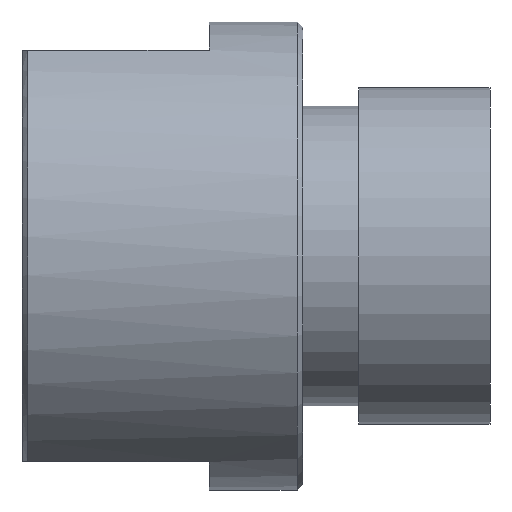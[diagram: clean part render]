
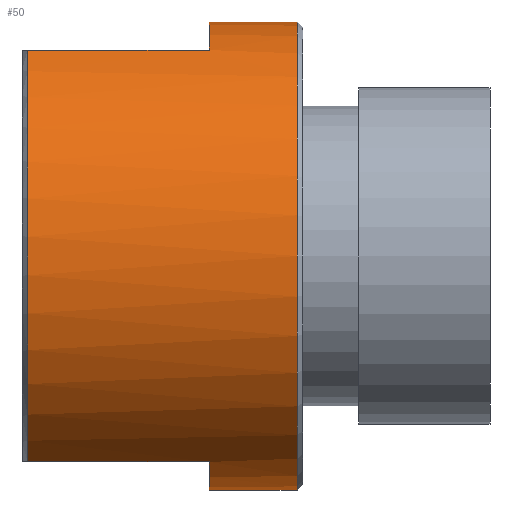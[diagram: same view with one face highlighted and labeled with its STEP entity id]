
A CAD part, left-side view. The second image highlights one B-rep face of the part: STEP entity #50.
In plain terms, the highlighted cylindrical face has radius 12.5 mm (diameter 25 mm), a partial arc.
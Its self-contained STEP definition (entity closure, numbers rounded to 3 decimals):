
#26 = VERTEX_POINT ( 'NONE', #477 ) ;
#30 = CARTESIAN_POINT ( 'NONE',  ( 0., 0.3, -12.5 ) ) ;
#36 = DIRECTION ( 'NONE',  ( 0., -1., 0. ) ) ;
#50 = ADVANCED_FACE ( 'NONE', ( #866 ), #141, .T. ) ;
#51 = VERTEX_POINT ( 'NONE', #287 ) ;
#60 = DIRECTION ( 'NONE',  ( 0., -1., 0. ) ) ;
#64 = ORIENTED_EDGE ( 'NONE', *, *, #449, .F. ) ;
#131 = VERTEX_POINT ( 'NONE', #168 ) ;
#141 = CYLINDRICAL_SURFACE ( 'NONE', #595, 12.5 ) ;
#157 = CARTESIAN_POINT ( 'NONE',  ( 0., 15., 0. ) ) ;
#159 = VERTEX_POINT ( 'NONE', #30 ) ;
#168 = CARTESIAN_POINT ( 'NONE',  ( -5.937, 5., 11. ) ) ;
#178 = DIRECTION ( 'NONE',  ( 0., -1., 0. ) ) ;
#190 = DIRECTION ( 'NONE',  ( 0., -1., 0. ) ) ;
#217 = DIRECTION ( 'NONE',  ( 0., -1., 0. ) ) ;
#245 = AXIS2_PLACEMENT_3D ( 'NONE', #721, #36, #801 ) ;
#250 = CARTESIAN_POINT ( 'NONE',  ( -5.937, 5., -11. ) ) ;
#271 = EDGE_CURVE ( 'NONE', #789, #496, #743, .T. ) ;
#287 = CARTESIAN_POINT ( 'NONE',  ( 0., 5., 12.5 ) ) ;
#288 = AXIS2_PLACEMENT_3D ( 'NONE', #514, #851, #318 ) ;
#292 = CIRCLE ( 'NONE', #245, 12.5 ) ;
#308 = VECTOR ( 'NONE', #190, 1000. ) ;
#318 = DIRECTION ( 'NONE',  ( 0., 0., 1. ) ) ;
#323 = CARTESIAN_POINT ( 'NONE',  ( 0., 15., 12.5 ) ) ;
#350 = LINE ( 'NONE', #364, #875 ) ;
#364 = CARTESIAN_POINT ( 'NONE',  ( 0., 15., -12.5 ) ) ;
#367 = EDGE_CURVE ( 'NONE', #159, #26, #392, .T. ) ;
#382 = EDGE_CURVE ( 'NONE', #51, #131, #650, .T. ) ;
#391 = DIRECTION ( 'NONE',  ( 0., 1., 0. ) ) ;
#392 = CIRCLE ( 'NONE', #288, 12.5 ) ;
#398 = ORIENTED_EDGE ( 'NONE', *, *, #367, .T. ) ;
#402 = AXIS2_PLACEMENT_3D ( 'NONE', #790, #391, #724 ) ;
#407 = CARTESIAN_POINT ( 'NONE',  ( -5.937, 15., 11. ) ) ;
#429 = CARTESIAN_POINT ( 'NONE',  ( 0., 5., -12.5 ) ) ;
#437 = DIRECTION ( 'NONE',  ( 0., -1., 0. ) ) ;
#449 = EDGE_CURVE ( 'NONE', #663, #131, #765, .T. ) ;
#466 = ORIENTED_EDGE ( 'NONE', *, *, #382, .T. ) ;
#471 = EDGE_LOOP ( 'NONE', ( #593, #466, #64, #684, #532, #490, #517, #398 ) ) ;
#477 = CARTESIAN_POINT ( 'NONE',  ( 0., 0.3, 12.5 ) ) ;
#489 = CIRCLE ( 'NONE', #402, 12.5 ) ;
#490 = ORIENTED_EDGE ( 'NONE', *, *, #853, .F. ) ;
#496 = VERTEX_POINT ( 'NONE', #803 ) ;
#501 = CARTESIAN_POINT ( 'NONE',  ( -5.937, 15., -11. ) ) ;
#514 = CARTESIAN_POINT ( 'NONE',  ( 0., 0.3, 0. ) ) ;
#517 = ORIENTED_EDGE ( 'NONE', *, *, #605, .T. ) ;
#532 = ORIENTED_EDGE ( 'NONE', *, *, #271, .F. ) ;
#549 = VECTOR ( 'NONE', #558, 1000. ) ;
#558 = DIRECTION ( 'NONE',  ( 0., 1., 0. ) ) ;
#566 = CARTESIAN_POINT ( 'NONE',  ( 0., 5., 0. ) ) ;
#575 = AXIS2_PLACEMENT_3D ( 'NONE', #566, #178, #637 ) ;
#581 = LINE ( 'NONE', #323, #308 ) ;
#593 = ORIENTED_EDGE ( 'NONE', *, *, #795, .F. ) ;
#595 = AXIS2_PLACEMENT_3D ( 'NONE', #157, #217, #831 ) ;
#599 = VERTEX_POINT ( 'NONE', #429 ) ;
#605 = EDGE_CURVE ( 'NONE', #599, #159, #350, .T. ) ;
#637 = DIRECTION ( 'NONE',  ( 0., 0., -1. ) ) ;
#650 = CIRCLE ( 'NONE', #575, 12.5 ) ;
#663 = VERTEX_POINT ( 'NONE', #838 ) ;
#668 = VECTOR ( 'NONE', #60, 1000. ) ;
#684 = ORIENTED_EDGE ( 'NONE', *, *, #864, .T. ) ;
#721 = CARTESIAN_POINT ( 'NONE',  ( 0., 14.7, 0. ) ) ;
#724 = DIRECTION ( 'NONE',  ( -1., 0., 0. ) ) ;
#743 = LINE ( 'NONE', #501, #549 ) ;
#765 = LINE ( 'NONE', #407, #668 ) ;
#789 = VERTEX_POINT ( 'NONE', #250 ) ;
#790 = CARTESIAN_POINT ( 'NONE',  ( 0., 5., 0. ) ) ;
#795 = EDGE_CURVE ( 'NONE', #51, #26, #581, .T. ) ;
#801 = DIRECTION ( 'NONE',  ( 0., 0., 1. ) ) ;
#803 = CARTESIAN_POINT ( 'NONE',  ( -5.937, 14.7, -11. ) ) ;
#831 = DIRECTION ( 'NONE',  ( 0., 0., -1. ) ) ;
#838 = CARTESIAN_POINT ( 'NONE',  ( -5.937, 14.7, 11. ) ) ;
#851 = DIRECTION ( 'NONE',  ( 0., 1., 0. ) ) ;
#853 = EDGE_CURVE ( 'NONE', #599, #789, #489, .T. ) ;
#864 = EDGE_CURVE ( 'NONE', #663, #496, #292, .T. ) ;
#866 = FACE_OUTER_BOUND ( 'NONE', #471, .T. ) ;
#875 = VECTOR ( 'NONE', #437, 1000. ) ;
